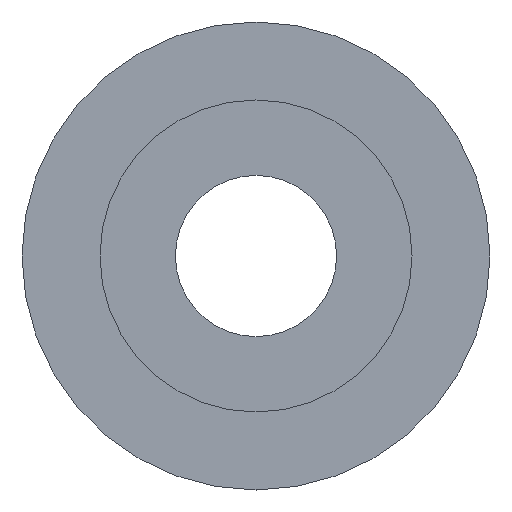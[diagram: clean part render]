
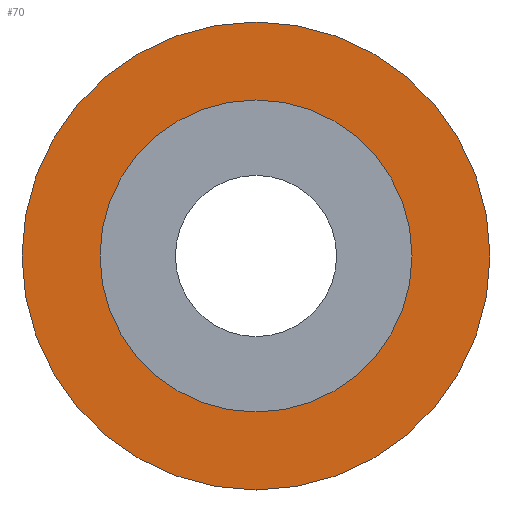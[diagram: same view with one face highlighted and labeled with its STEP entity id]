
A CAD part, front view. The second image highlights one B-rep face of the part: STEP entity #70.
In plain terms, the highlighted planar face has unit normal (0, -1, 0).
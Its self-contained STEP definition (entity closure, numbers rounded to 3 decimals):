
#24 = VERTEX_POINT('',#25);
#25 = CARTESIAN_POINT('',(3.,8.,0.));
#31 = EDGE_CURVE('',#24,#24,#32,.T.);
#32 = CIRCLE('',#33,3.);
#33 = AXIS2_PLACEMENT_3D('',#34,#35,#36);
#34 = CARTESIAN_POINT('',(0.,8.,0.));
#35 = DIRECTION('',(0.,1.,0.));
#36 = DIRECTION('',(1.,0.,0.));
#70 = ADVANCED_FACE('',(#71,#82),#85,.F.);
#71 = FACE_BOUND('',#72,.F.);
#72 = EDGE_LOOP('',(#73));
#73 = ORIENTED_EDGE('',*,*,#74,.T.);
#74 = EDGE_CURVE('',#75,#75,#77,.T.);
#75 = VERTEX_POINT('',#76);
#76 = CARTESIAN_POINT('',(4.5,8.,0.));
#77 = CIRCLE('',#78,4.5);
#78 = AXIS2_PLACEMENT_3D('',#79,#80,#81);
#79 = CARTESIAN_POINT('',(0.,8.,0.));
#80 = DIRECTION('',(0.,1.,0.));
#81 = DIRECTION('',(1.,0.,0.));
#82 = FACE_BOUND('',#83,.F.);
#83 = EDGE_LOOP('',(#84));
#84 = ORIENTED_EDGE('',*,*,#31,.F.);
#85 = PLANE('',#86);
#86 = AXIS2_PLACEMENT_3D('',#87,#88,#89);
#87 = CARTESIAN_POINT('',(0.,8.,0.));
#88 = DIRECTION('',(0.,1.,0.));
#89 = DIRECTION('',(1.,0.,0.));
